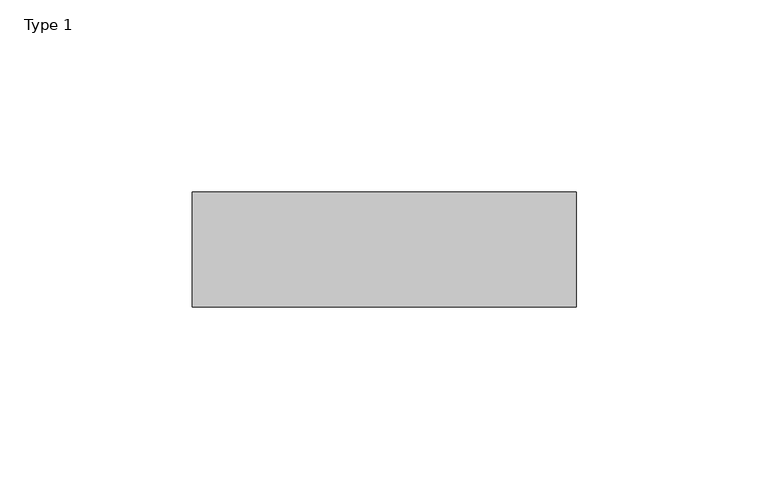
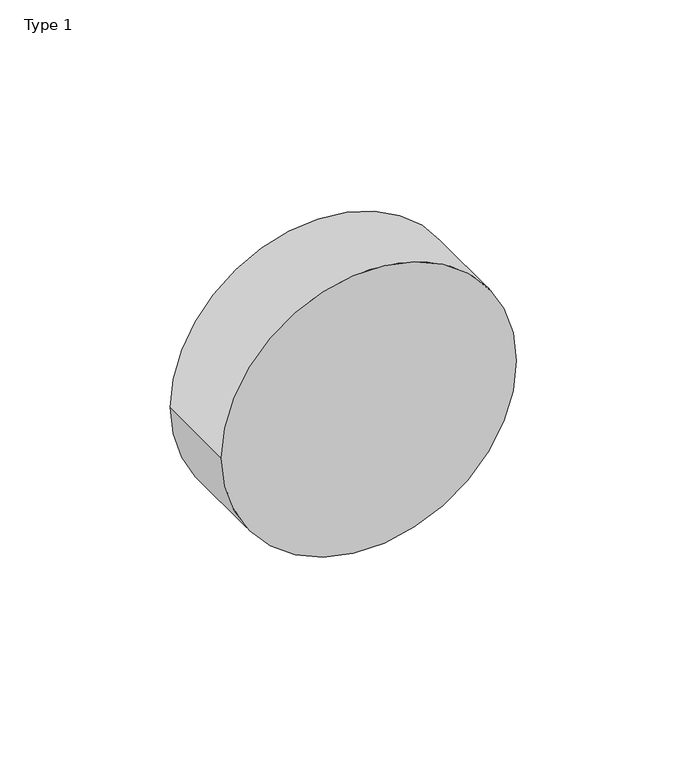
"""IFC4 building model written with IfcOpenShell, lengths in millimetres: proxy geometry, BIMHealth-Electrical-Alarm_Sounder-v1 : Type 1."""

from ifc_helpers import new_model, si_unit, point, frame, frame_2d, origin, place, context, project, spatial, circle_curve, trimmed, segment, composite_curve, outline, extrude, source, transform, mapped, element, save


def type_1_6de7a62d(model_context):
    return source(origin(), model_context, "Body", "SweptSolid", [
        extrude(outline(composite_curve([segment(trimmed(circle_curve(frame_2d((2150.0, 175.0)), 50.0), [point((2150.0, 225.0))], [point((2150.0, 125.0))], False, "CARTESIAN"), True, "CONTINUOUS"), segment(trimmed(circle_curve(frame_2d((2150.0, 175.0)), 50.0), [point((2150.0, 125.0))], [point((2150.0, 225.0))], False, "CARTESIAN"), True, "CONTINUOUS")], self_intersect=False)), frame((0.0, 50.0, 0.0), z_axis=(0.0, 1.0, 0.0), x_axis=(0.0, 0.0, 1.0)), (0.0, 0.0, 1.0), 30.0),
    ])


if __name__ == "__main__":
    model = new_model("IFC4")
    model_context = context("Model", 3, world=origin())
    ifc_project = project(units=[si_unit("LENGTHUNIT", "METRE", prefix="MILLI")], contexts=[model_context])
    site = spatial("IfcSite", under=ifc_project)
    building = spatial("IfcBuilding", under=site)
    placement = place(None, origin())
    type_1_shape = type_1_6de7a62d(model_context)
    element("IfcBuildingElementProxy", 1, Name="BIMHealth-Electrical-Alarm_Sounder-v1 : Type 1", ObjectType="BIMHealth-Electrical-Alarm_Sounder-v1 : Type 1", at=placement, inside=building, context=model_context, shape_type="MappedRepresentation", body=[
        mapped(type_1_shape, transform((0.0, 0.0, 0.0), x_axis=(1.0, 0.0, 0.0), y_axis=(0.0, 1.0, 0.0), z_axis=(0.0, 0.0, 1.0))),
    ])
    save(model, "model.ifc")
